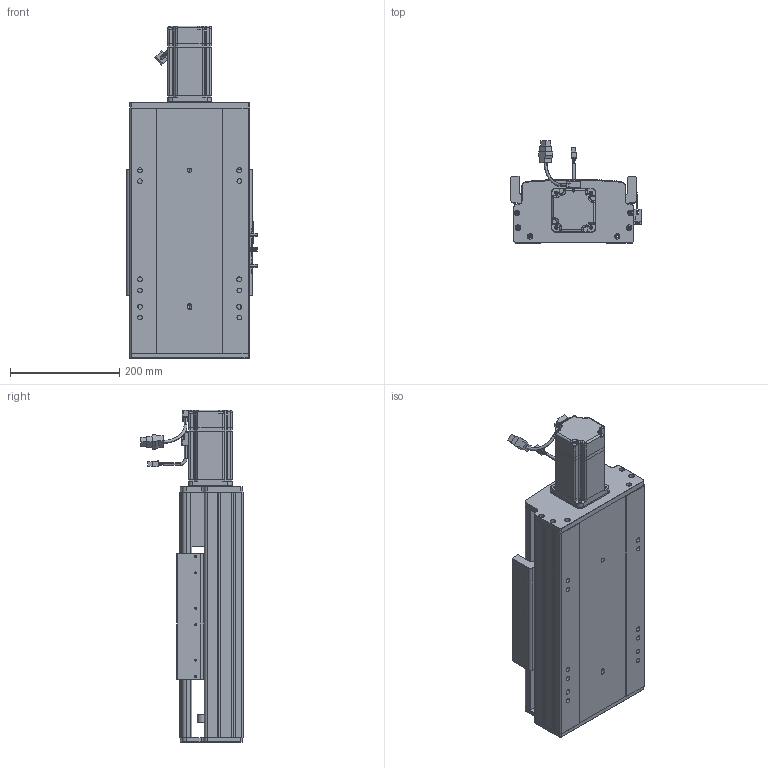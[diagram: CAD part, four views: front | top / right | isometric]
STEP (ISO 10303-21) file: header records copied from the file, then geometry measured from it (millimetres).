
FILE_DESCRIPTION (( 'STEP AP203' ), '1' );
FILE_NAME ('RY220-L2525-300-MK.SLDASM_50.step', '2022-07-04T02:57:04', ( '' ), ( '' ), 'SwSTEP 2.0', 'SolidWorks 2016', '' );
FILE_SCHEMA (( 'CONFIG_CONTROL_DESIGN' ));
Length unit declared in the file: millimetre
Products named in the file (12): RY220綴裔啣; RY220-L2525-300-MK.SLDASM_50; RY220菁釱MK-300_50; 覜茼ん672; RY220半封闭25-32螺母铝滑块; RY220-300-奻裔啣-MK_50; 滅袉蝶18-12; RY220电机支撑座FK20（PCD90M6）; 怢湛750W_ECMA-CX0807ES; RY220-俋离672覜茼んえ; RY220ヶ裔啣; 滅袉蝶18-15
Assembly tree (15 placements, depth 2):
  RY220-L2525-300-MK.SLDASM_50
    RY220菁釱MK-300_50
    RY220电机支撑座FK20（PCD90M6）
    怢湛750W_ECMA-CX0807ES
    滅袉蝶18-12  x2
    RY220ヶ裔啣
    RY220綴裔啣
    覜茼ん672  x3
    RY220半封闭25-32螺母铝滑块
    RY220-300-奻裔啣-MK_50
    RY220-俋离672覜茼んえ
    滅袉蝶18-15  x2
Bounding box: 238.7 x 187.27 x 608.3 mm (x, y, z)
Volume: 6220979.6 mm3; surface area: 1428900.7 mm2
Topology: 16 solids, 16 shells, 2030 faces, 5622 edges, 3584 vertices
Faces by surface type: plane 907, cylinder 876, cone 185, bspline 36, sphere 16, torus 10
Entity records: 66658 total; most frequent: CARTESIAN_POINT 19153, ORIENTED_EDGE 9912, DIRECTION 9211, EDGE_CURVE 4956, VERTEX_POINT 3240, AXIS2_PLACEMENT_3D 3187, LINE 2837, VECTOR 2837
